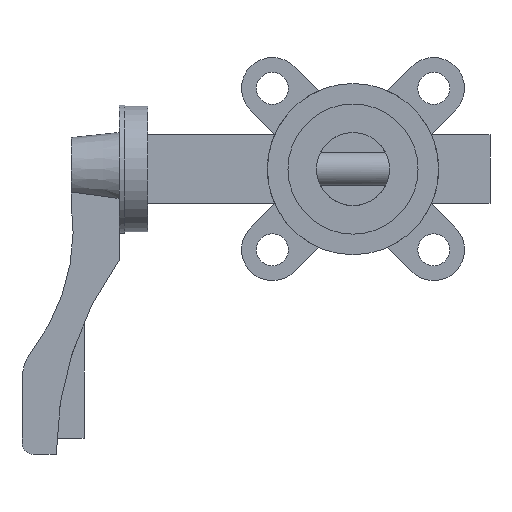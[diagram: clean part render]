
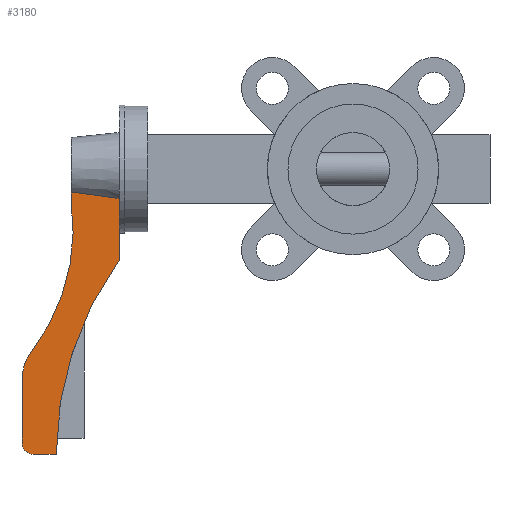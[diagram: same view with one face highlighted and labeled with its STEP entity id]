
A CAD part, left-side view. The second image highlights one B-rep face of the part: STEP entity #3180.
In plain terms, the highlighted planar face has unit normal (-1, 0, 0).
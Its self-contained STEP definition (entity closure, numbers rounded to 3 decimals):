
#46 = CARTESIAN_POINT ( 'NONE',  ( -9.5, 123.5, -10. ) ) ;
#72 = VECTOR ( 'NONE', #3442, 1000. ) ;
#77 = VECTOR ( 'NONE', #695, 1000. ) ;
#220 = PLANE ( 'NONE',  #1235 ) ;
#236 = AXIS2_PLACEMENT_3D ( 'NONE', #522, #854, #483 ) ;
#264 = VERTEX_POINT ( 'NONE', #1379 ) ;
#307 = LINE ( 'NONE', #1050, #459 ) ;
#353 = DIRECTION ( 'NONE',  ( 0., 0., 1. ) ) ;
#392 = CARTESIAN_POINT ( 'NONE',  ( -9.5, -15.114, -125. ) ) ;
#409 = DIRECTION ( 'NONE',  ( 0., 0., 1. ) ) ;
#459 = VECTOR ( 'NONE', #2080, 1000. ) ;
#483 = DIRECTION ( 'NONE',  ( 0., 0., -1. ) ) ;
#492 = ORIENTED_EDGE ( 'NONE', *, *, #1825, .F. ) ;
#522 = CARTESIAN_POINT ( 'NONE',  ( -9.5, 210.6, -26.343 ) ) ;
#570 = EDGE_CURVE ( 'NONE', #2837, #3217, #1780, .T. ) ;
#604 = CIRCLE ( 'NONE', #3982, 5. ) ;
#692 = EDGE_CURVE ( 'NONE', #4341, #3158, #604, .T. ) ;
#694 = AXIS2_PLACEMENT_3D ( 'NONE', #2921, #1787, #2848 ) ;
#695 = DIRECTION ( 'NONE',  ( 0., 0., -1. ) ) ;
#744 = CARTESIAN_POINT ( 'NONE',  ( -9.5, 102.5, -12.874 ) ) ;
#748 = LINE ( 'NONE', #2136, #4245 ) ;
#779 = CARTESIAN_POINT ( 'NONE',  ( -9.5, 102.5, -26.339 ) ) ;
#821 = ORIENTED_EDGE ( 'NONE', *, *, #4141, .F. ) ;
#854 = DIRECTION ( 'NONE',  ( -1., 0., 0. ) ) ;
#908 = CARTESIAN_POINT ( 'NONE',  ( -9.5, 102.5, -40. ) ) ;
#940 = EDGE_CURVE ( 'NONE', #3217, #3536, #3491, .T. ) ;
#947 = ORIENTED_EDGE ( 'NONE', *, *, #4028, .F. ) ;
#1034 = VERTEX_POINT ( 'NONE', #908 ) ;
#1050 = CARTESIAN_POINT ( 'NONE',  ( -9.5, 140., -125. ) ) ;
#1078 = CARTESIAN_POINT ( 'NONE',  ( -9.5, 123.5, -10. ) ) ;
#1206 = CARTESIAN_POINT ( 'NONE',  ( -9.5, 140.852, -80.001 ) ) ;
#1230 = CARTESIAN_POINT ( 'NONE',  ( -9.5, -15.114, -125. ) ) ;
#1235 = AXIS2_PLACEMENT_3D ( 'NONE', #1230, #4300, #4386 ) ;
#1254 = CARTESIAN_POINT ( 'NONE',  ( -9.5, 140., -120. ) ) ;
#1274 = DIRECTION ( 'NONE',  ( 0., 0., -1. ) ) ;
#1367 = LINE ( 'NONE', #2420, #77 ) ;
#1379 = CARTESIAN_POINT ( 'NONE',  ( -9.5, 102.5, -12.874 ) ) ;
#1432 = DIRECTION ( 'NONE',  ( 0., 0., 1. ) ) ;
#1580 = AXIS2_PLACEMENT_3D ( 'NONE', #392, #2178, #1432 ) ;
#1770 = CARTESIAN_POINT ( 'NONE',  ( -9.5, 102.5, -40. ) ) ;
#1780 = CIRCLE ( 'NONE', #694, 20. ) ;
#1787 = DIRECTION ( 'NONE',  ( 1., 0., 0. ) ) ;
#1802 = CARTESIAN_POINT ( 'NONE',  ( -9.5, 145., -120. ) ) ;
#1824 = EDGE_CURVE ( 'NONE', #3536, #4134, #2754, .T. ) ;
#1825 = EDGE_CURVE ( 'NONE', #2179, #4341, #307, .T. ) ;
#1850 = B_SPLINE_CURVE_WITH_KNOTS ( 'NONE', 3,
 ( #1078, #2403, #3829, #744 ),
 .UNSPECIFIED., .F., .F.,
 ( 4, 4 ),
 ( 0.01, 0.031 ),
 .UNSPECIFIED. ) ;
#1919 = CARTESIAN_POINT ( 'NONE',  ( -9.5, 123.5, -13.793 ) ) ;
#1994 = ORIENTED_EDGE ( 'NONE', *, *, #3274, .F. ) ;
#2071 = CARTESIAN_POINT ( 'NONE',  ( -9.5, 145., -92.196 ) ) ;
#2080 = DIRECTION ( 'NONE',  ( 0., 1., 0. ) ) ;
#2136 = CARTESIAN_POINT ( 'NONE',  ( -9.5, 145., -92.196 ) ) ;
#2178 = DIRECTION ( 'NONE',  ( -1., 0., 0. ) ) ;
#2179 = VERTEX_POINT ( 'NONE', #4193 ) ;
#2403 = CARTESIAN_POINT ( 'NONE',  ( -9.5, 116.508, -11.013 ) ) ;
#2420 = CARTESIAN_POINT ( 'NONE',  ( -9.5, 102.5, -40. ) ) ;
#2446 = ORIENTED_EDGE ( 'NONE', *, *, #3077, .F. ) ;
#2736 = ORIENTED_EDGE ( 'NONE', *, *, #940, .F. ) ;
#2754 = LINE ( 'NONE', #4072, #4360 ) ;
#2817 = EDGE_CURVE ( 'NONE', #264, #3148, #3424, .T. ) ;
#2837 = VERTEX_POINT ( 'NONE', #2071 ) ;
#2848 = DIRECTION ( 'NONE',  ( 0., 0., -1. ) ) ;
#2921 = CARTESIAN_POINT ( 'NONE',  ( -9.5, 125., -92.196 ) ) ;
#3077 = EDGE_CURVE ( 'NONE', #4134, #264, #1850, .T. ) ;
#3148 = VERTEX_POINT ( 'NONE', #779 ) ;
#3157 = ORIENTED_EDGE ( 'NONE', *, *, #692, .F. ) ;
#3158 = VERTEX_POINT ( 'NONE', #1802 ) ;
#3174 = CIRCLE ( 'NONE', #1580, 145.114 ) ;
#3180 = ADVANCED_FACE ( 'NONE', ( #3326 ), #220, .T. ) ;
#3217 = VERTEX_POINT ( 'NONE', #1206 ) ;
#3274 = EDGE_CURVE ( 'NONE', #3148, #1034, #1367, .T. ) ;
#3326 = FACE_OUTER_BOUND ( 'NONE', #3865, .T. ) ;
#3424 = LINE ( 'NONE', #1770, #72 ) ;
#3442 = DIRECTION ( 'NONE',  ( 0., 0., -1. ) ) ;
#3491 = CIRCLE ( 'NONE', #236, 88. ) ;
#3536 = VERTEX_POINT ( 'NONE', #1919 ) ;
#3615 = ORIENTED_EDGE ( 'NONE', *, *, #570, .F. ) ;
#3655 = ORIENTED_EDGE ( 'NONE', *, *, #2817, .F. ) ;
#3672 = CARTESIAN_POINT ( 'NONE',  ( -9.5, 140., -125. ) ) ;
#3702 = DIRECTION ( 'NONE',  ( 1., 0., 0. ) ) ;
#3798 = ORIENTED_EDGE ( 'NONE', *, *, #1824, .F. ) ;
#3829 = CARTESIAN_POINT ( 'NONE',  ( -9.5, 109.506, -11.959 ) ) ;
#3865 = EDGE_LOOP ( 'NONE', ( #2446, #3798, #2736, #3615, #821, #3157, #492, #947, #1994, #3655 ) ) ;
#3982 = AXIS2_PLACEMENT_3D ( 'NONE', #1254, #3702, #1274 ) ;
#4028 = EDGE_CURVE ( 'NONE', #1034, #2179, #3174, .T. ) ;
#4072 = CARTESIAN_POINT ( 'NONE',  ( -9.5, 123.5, 0. ) ) ;
#4134 = VERTEX_POINT ( 'NONE', #46 ) ;
#4141 = EDGE_CURVE ( 'NONE', #3158, #2837, #748, .T. ) ;
#4193 = CARTESIAN_POINT ( 'NONE',  ( -9.5, 130., -125. ) ) ;
#4245 = VECTOR ( 'NONE', #409, 1000. ) ;
#4300 = DIRECTION ( 'NONE',  ( -1., 0., 0. ) ) ;
#4341 = VERTEX_POINT ( 'NONE', #3672 ) ;
#4360 = VECTOR ( 'NONE', #353, 1000. ) ;
#4386 = DIRECTION ( 'NONE',  ( 0., 0., 1. ) ) ;
